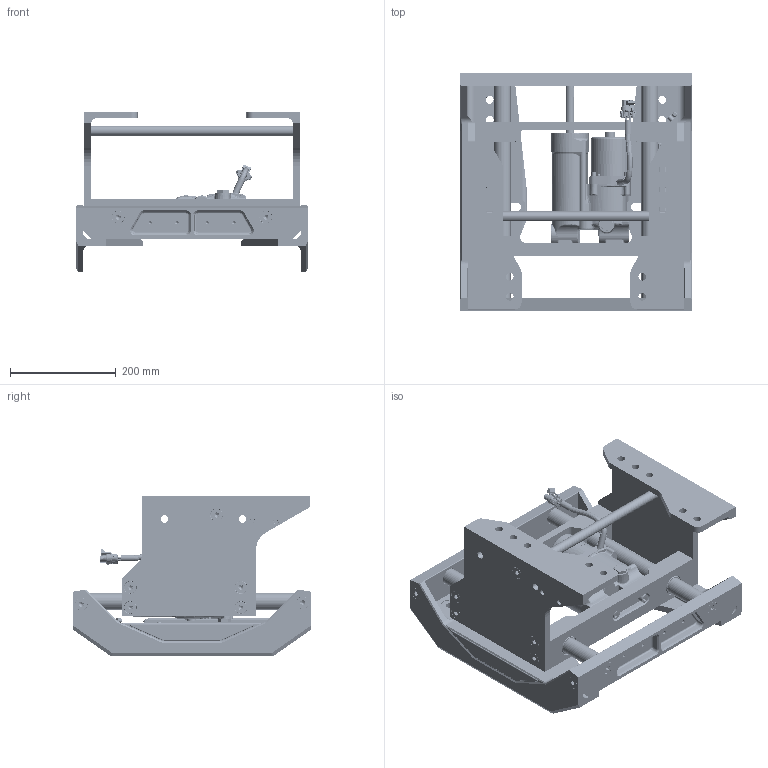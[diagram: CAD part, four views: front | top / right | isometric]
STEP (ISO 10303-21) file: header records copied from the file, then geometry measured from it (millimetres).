
FILE_DESCRIPTION((''),'2;1');
FILE_NAME('470110_ASM','2018-04-27T15:53:15',('dbaros'),(''),'CREO PARAMETRIC BY PTC INC, 2017260','CREO PARAMETRIC BY PTC INC, 2017260','');
FILE_SCHEMA(('CONFIG_CONTROL_DESIGN'));
Length unit declared in the file: inch
Products named in the file (84): 469713; 469723; 469724; 469714; DW0316; 469712; 469014; 550305; 083521; 431727; 451201; 791025; 451040; 451311; 004923; 550308_AF0; 550307; 550337; 550500_ASM; 451306; 550315; 451640_COMPRESSED; 451026; 211039; 452008_AF0; 455082; 548761; 451124; 872018; 791222; 872019; 469104; 469140; 451701; 014624; 211133; 452720; 454180; 469110; 469100_ASM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
Assembly tree (148 placements, depth 4):
  470110_ASM
    469713
    469723
    469724
    469714
    DW0316  x2
    469712
    469300_ASM
      469014
      550305  x4
      083521
      431727
      451201
      791025
      451040
      451311  x2
      004923  x2
      550500_ASM  x2
        550308_AF0
        550307
        550337
      451306  x2
      550315  x2
      451640_COMPRESSED  x2
      451026
      211039
      452008_AF0
      455082  x4
      548761  x4
      469100_ASM
        451124
        872018
        791222
        872019
        469104
        469140
        451701  x2
        014624
        211133
        452720
        454180
        469110
      798075_ASM
        552055
        798021
        452525
        550324  x2
        551112
        550530  x2
        550525  x2
        251625  x2
        004622  x2
      550530  x2
      799061  x2
      451222
      451001
      480011
      469620
      998837
      950722
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Bounding box: 438.15 x 450.85 x 304.8 mm (x, y, z)
Volume: 7670499.7 mm3; surface area: 1604483.2 mm2
Topology: 143 solids, 144 shells, 6932 faces, 16347 edges, 9856 vertices
Faces by surface type: cylinder 1988, plane 1940, cone 1115, torus 893, bspline 700, extrusion 205, sphere 91
Entity records: 212852 total; most frequent: CARTESIAN_POINT 83548, ORIENTED_EDGE 26786, DIRECTION 26608, EDGE_CURVE 13393, AXIS2_PLACEMENT_3D 10597, VERTEX_POINT 8160, EDGE_LOOP 6123, FACE_OUTER_BOUND 5612
